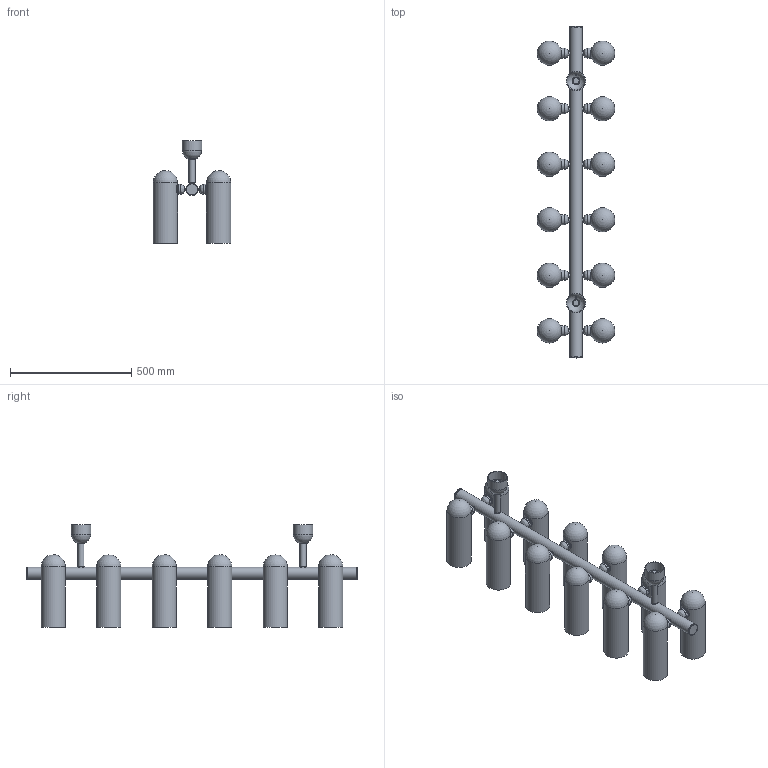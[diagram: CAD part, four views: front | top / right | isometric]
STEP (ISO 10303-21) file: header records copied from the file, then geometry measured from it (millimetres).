
FILE_DESCRIPTION(/* description */ (''),/* implementation_level */ '2;1');
FILE_NAME(/* name */ 'T:\B157 Odyssey Linear Chandelier MD\Pliki bryłowe handlowe\B157 Odyssey Linear MD 3D files_na stronę\B157 Odyssey Linear MD.stp',/* time_stamp */ '2022-02-02T13:56:31+01:00',/* author */ ('Mariusz Awariusz'),/* organization */ (''),/* preprocessor_version */ 'ST-DEVELOPER v18.1',/* originating_system */ 'Autodesk Inventor 2022',/* authorisation */ '');
FILE_SCHEMA (('AUTOMOTIVE_DESIGN { 1 0 10303 214 3 1 1 }'));
Length unit declared in the file: millimetre
Products named in the file (1): B157 Odyssey Linear Chandelier MD CE v12_na potrzeby plików 3D_2_
jako część_korpusy bryłowe
Bounding box: 319.1 x 1367 x 424 mm (x, y, z)
Volume: 30228652 mm3; surface area: 1689275.7 mm2
Topology: 73 solids, 73 shells, 297 faces, 477 edges, 316 vertices
Faces by surface type: plane 122, cylinder 113, bspline 38, sphere 18, cone 6
Full cylindrical faces by diameter (mm): 4 x2, 10 x12, 13 x12, 25 x4, 28 x4, 30 x2, 31.5 x2, 32 x2, 37 x12, 42 x12, 44 x12, 46 x2, 48 x2, 50 x3, 76 x2, 80 x2, 100 x12
Entity records: 23900 total; most frequent: CARTESIAN_POINT 18347, DIRECTION 1213, ORIENTED_EDGE 930, AXIS2_PLACEMENT_3D 548, EDGE_CURVE 465, EDGE_LOOP 335, VERTEX_POINT 316, FACE_OUTER_BOUND 297
